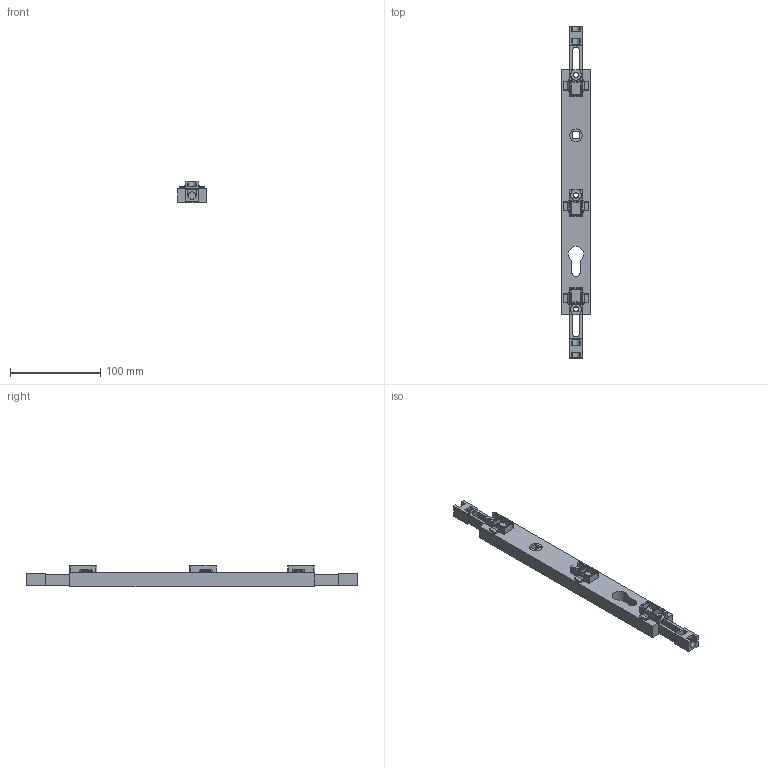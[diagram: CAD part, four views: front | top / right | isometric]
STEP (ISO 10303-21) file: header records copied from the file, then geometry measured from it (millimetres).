
FILE_DESCRIPTION (( 'STEP AP214' ), '1' );
FILE_NAME ('TPL-H-106-C 23Sep2024.STEP', '2024-09-23T05:43:39', ( '' ), ( '' ), 'SwSTEP 2.0', 'SolidWorks 2023', '' );
FILE_SCHEMA (( 'AUTOMOTIVE_DESIGN' ));
Length unit declared in the file: millimetre
Products named in the file (5): TPL-H-106-C 23Sep2024; Copy (2) of TPLGen2 lock body keyed assembly^TPL-H-605 23Sep2024_Bolts extended - left; Copy of TPL-H-506^TPL-H-605 23Sep2024; Copy of TPLGen2 push rod - simplified^Copy (2) of TPLGen2 lock body keyed assembly_TPL-H-605 23Sep2024_Female thread M10; Copy of TPLGen2 lock body keyed^Copy (2) of TPLGen2 lock body keyed assembly_TPL-H-605 23Sep2024_Left
Assembly tree (7 placements, depth 3):
  TPL-H-106-C 23Sep2024
    Copy (2) of TPLGen2 lock body keyed assembly^TPL-H-605 23Sep2024_Bolts extended - left
      Copy of TPLGen2 lock body keyed^Copy (2) of TPLGen2 lock body keyed assembly_TPL-H-605 23Sep2024_Left
      Copy of TPLGen2 push rod - simplified^Copy (2) of TPLGen2 lock body keyed assembly_TPL-H-605 23Sep2024_Female thread M10  x2
    Copy of TPL-H-506^TPL-H-605 23Sep2024  x3
Bounding box: 32 x 368.6 x 23.5 mm (x, y, z)
Volume: 139023.7 mm3; surface area: 47429.3 mm2
Topology: 6 solids, 6 shells, 611 faces, 1521 edges, 940 vertices
Faces by surface type: plane 251, cylinder 226, torus 63, bspline 48, sphere 21, cone 2
Entity records: 9142 total; most frequent: CARTESIAN_POINT 2381, DIRECTION 1423, ORIENTED_EDGE 1338, EDGE_CURVE 669, AXIS2_PLACEMENT_3D 518, VERTEX_POINT 424, VECTOR 387, LINE 387
